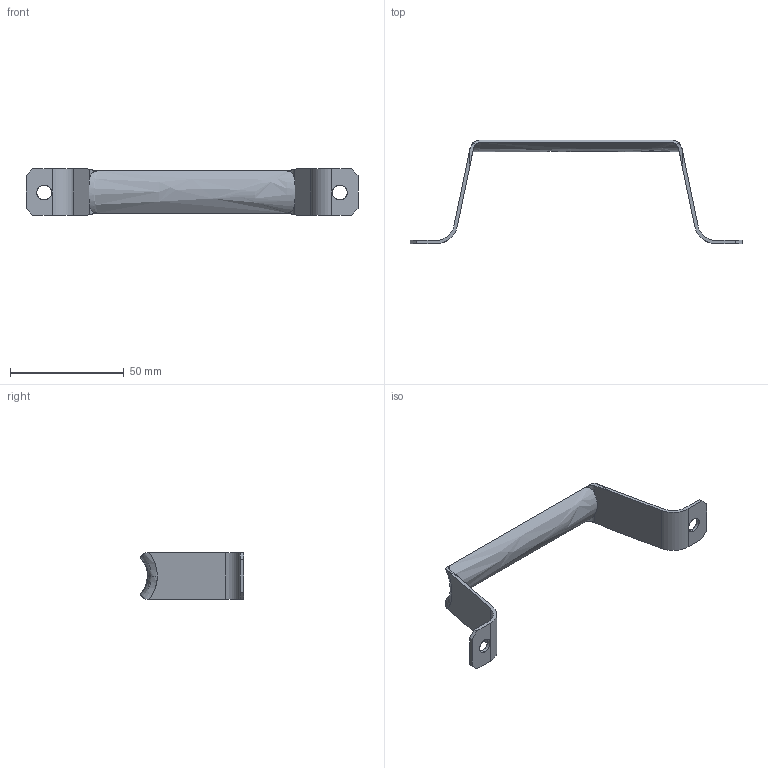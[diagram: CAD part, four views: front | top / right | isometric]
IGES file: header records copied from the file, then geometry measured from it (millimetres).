
Start section: SolidWorks IGES FILE using analytic representation for surfaces
Global section: file name: C:\Documents and Settings\lecoutey\Bureau\PX 397\PX 397.IGS; native system: SolidWorks 2004 by SolidWorks Corporation; preprocessor: Version 5.3; author: lecoutey; date: 050408.173049; units: millimetre
Bounding box: 146 x 45.53 x 20.5 mm (x, y, z)
Surface area: 8933.5 mm2 (no closed solid volume)
Topology: 0 solids, 0 shells, 45 faces, 608 edges, 608 vertices
Faces by surface type: bspline 27, revolution 18
